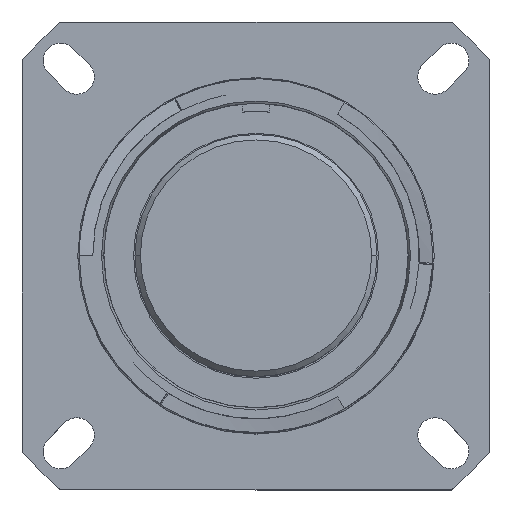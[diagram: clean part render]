
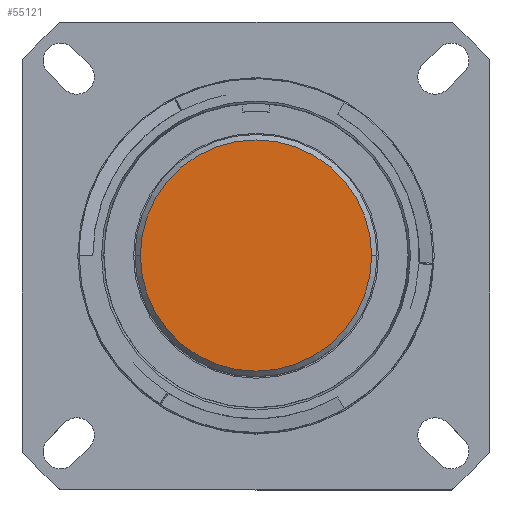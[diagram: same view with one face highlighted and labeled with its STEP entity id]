
A CAD part, top view. The second image highlights one B-rep face of the part: STEP entity #55121.
In plain terms, the highlighted planar face has unit normal (0, 0, 1).
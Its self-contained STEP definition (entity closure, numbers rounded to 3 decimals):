
#4858 = FACE_OUTER_BOUND ( 'NONE', #96225, .T. ) ;
#13195 = VERTEX_POINT ( 'NONE', #31203 ) ;
#14566 = AXIS2_PLACEMENT_3D ( 'NONE', #71614, #104464, #36616 ) ;
#22312 = ORIENTED_EDGE ( 'NONE', *, *, #103289, .T. ) ;
#24930 = CIRCLE ( 'NONE', #84397, 10.795 ) ;
#29522 = DIRECTION ( 'NONE',  ( 0., 0., 1. ) ) ;
#31203 = CARTESIAN_POINT ( 'NONE',  ( -10.795, 0., -0.457 ) ) ;
#32066 = DIRECTION ( 'NONE',  ( 1., 0., 0. ) ) ;
#32530 = VERTEX_POINT ( 'NONE', #63041 ) ;
#36616 = DIRECTION ( 'NONE',  ( 1., 0., 0. ) ) ;
#38228 = PLANE ( 'NONE',  #14566 ) ;
#38258 = CARTESIAN_POINT ( 'NONE',  ( 0., 0., -0.457 ) ) ;
#47340 = EDGE_CURVE ( 'NONE', #13195, #32530, #24930, .T. ) ;
#55121 = ADVANCED_FACE ( 'NONE', ( #4858 ), #38228, .T. ) ;
#63041 = CARTESIAN_POINT ( 'NONE',  ( 10.795, 0., -0.457 ) ) ;
#68160 = DIRECTION ( 'NONE',  ( 0., 0., 1. ) ) ;
#71614 = CARTESIAN_POINT ( 'NONE',  ( 0., 0., -0.457 ) ) ;
#84397 = AXIS2_PLACEMENT_3D ( 'NONE', #38258, #29522, #32066 ) ;
#85055 = AXIS2_PLACEMENT_3D ( 'NONE', #86773, #68160, #85145 ) ;
#85145 = DIRECTION ( 'NONE',  ( 1., 0., 0. ) ) ;
#86773 = CARTESIAN_POINT ( 'NONE',  ( 0., 0., -0.457 ) ) ;
#88585 = CIRCLE ( 'NONE', #85055, 10.795 ) ;
#96225 = EDGE_LOOP ( 'NONE', ( #98350, #22312 ) ) ;
#98350 = ORIENTED_EDGE ( 'NONE', *, *, #47340, .T. ) ;
#103289 = EDGE_CURVE ( 'NONE', #32530, #13195, #88585, .T. ) ;
#104464 = DIRECTION ( 'NONE',  ( 0., 0., 1. ) ) ;
